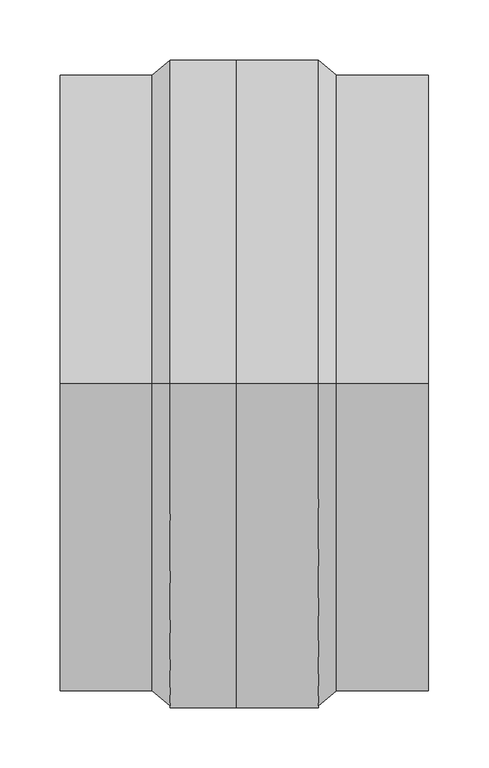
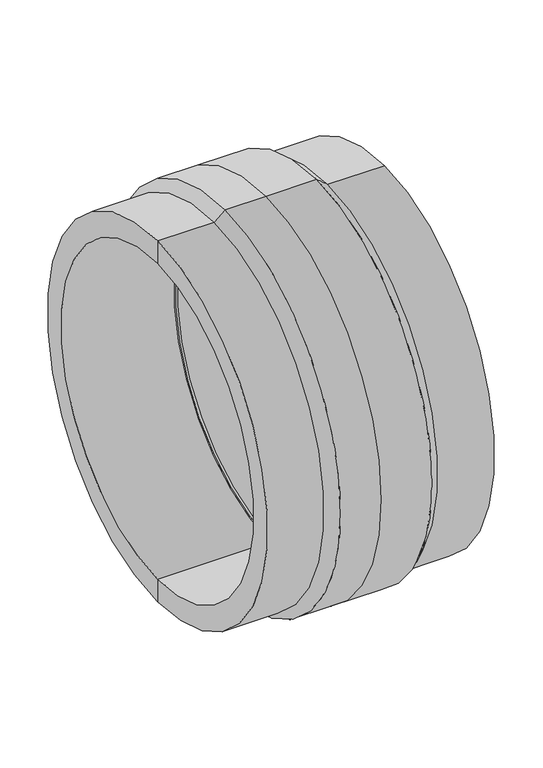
"""IFC4 building model written with IfcOpenShell, lengths in millimetres: pipe fitting geometry, Plumbing_Pipe-Fittings_Plasson_Coupler_490103 : Plumbing_Pipe-Fittings_Plasson_Coupler_490103."""

from ifc_helpers import new_model, si_unit, frame, origin, place, context, project, spatial, polyline, circle_curve, source, transform, mapped, element, save
from ifc_brep_helpers import plane_surface, cylinder_surface, revolved_surface, advanced_brep


def pipe_fitting_ba987658(model_context):
    return source(origin(), model_context, "Body", "AdvancedBrep", [
        advanced_brep(
        [(-1.5, 0.0, -225.0), (-1.5, 0.0, 225.0), (-153.0, 0.0, 225.0), (-153.0, 0.0, -225.0), (153.0, 0.0, -225.0), (153.0, 0.0, 225.0), (1.5, 0.0, 225.0), (1.5, 0.0, -225.0), (153.0, 0.0, -257.0), (153.0, 0.0, 257.0), (76.5, 0.0, -257.0), (76.5, 0.0, 257.0), (61.6666667, 0.0, -269.5), (61.6666667, 0.0, 269.5), (-6.5, 0.0, -269.5), (-6.5, 0.0, 269.5), (-61.6666667, 0.0, -269.5), (-61.6666667, 0.0, 269.5), (-76.5, 0.0, -257.0), (-76.5, 0.0, 257.0), (-153.0, 0.0, -257.0), (-153.0, 0.0, 257.0), (-1.5, 0.0, -222.0), (-1.5, 0.0, 222.0), (1.5, 0.0, -222.0), (1.5, 0.0, 222.0)],
        [
            (0, 1, circle_curve(frame((-1.5, 0.0, 0.0), z_axis=(1.0, 0.0, 0.0), x_axis=(0.0, 0.0, 1.0)), 225.0)),
            (1, 2),
            (2, 3, circle_curve(frame((-153.0, 0.0, 0.0), z_axis=(-1.0, 0.0, 0.0), x_axis=(0.0, 0.0, 1.0)), 225.0)),
            (3, 0),
            (1, 0, circle_curve(frame((-1.5, 0.0, 0.0), z_axis=(1.0, 0.0, 0.0), x_axis=(0.0, 0.0, 1.0)), 225.0)),
            (3, 2, circle_curve(frame((-153.0, 0.0, 0.0), z_axis=(-1.0, 0.0, 0.0), x_axis=(0.0, 0.0, 1.0)), 225.0)),
            (4, 5, circle_curve(frame((153.0, 0.0, 0.0), z_axis=(1.0, 0.0, 0.0), x_axis=(0.0, 0.0, 1.0)), 225.0)),
            (5, 6),
            (6, 7, circle_curve(frame((1.5, 0.0, 0.0), z_axis=(-1.0, 0.0, 0.0), x_axis=(0.0, 0.0, 1.0)), 225.0)),
            (7, 4),
            (5, 4, circle_curve(frame((153.0, 0.0, 0.0), z_axis=(1.0, 0.0, 0.0), x_axis=(0.0, 0.0, 1.0)), 225.0)),
            (7, 6, circle_curve(frame((1.5, 0.0, 0.0), z_axis=(-1.0, 0.0, 0.0), x_axis=(0.0, 0.0, 1.0)), 225.0)),
            (8, 9, circle_curve(frame((153.0, 0.0, 0.0), z_axis=(1.0, 0.0, 0.0), x_axis=(0.0, 0.0, 1.0)), 257.0)),
            (9, 5),
            (4, 8),
            (9, 8, circle_curve(frame((153.0, 0.0, 0.0), z_axis=(1.0, 0.0, 0.0), x_axis=(0.0, 0.0, 1.0)), 257.0)),
            (10, 11, circle_curve(frame((76.5, 0.0, 0.0), z_axis=(1.0, 0.0, 0.0), x_axis=(0.0, 0.0, 1.0)), 257.0)),
            (11, 9),
            (8, 10),
            (11, 10, circle_curve(frame((76.5, 0.0, 0.0), z_axis=(1.0, 0.0, 0.0), x_axis=(0.0, 0.0, 1.0)), 257.0)),
            (12, 13, circle_curve(frame((61.6666667, 0.0, 0.0), z_axis=(1.0, 0.0, 0.0), x_axis=(0.0, 0.0, 1.0)), 269.5)),
            (13, 11),
            (10, 12),
            (13, 12, circle_curve(frame((61.6666667, 0.0, 0.0), z_axis=(1.0, 0.0, 0.0), x_axis=(0.0, 0.0, 1.0)), 269.5)),
            (14, 15, circle_curve(frame((-6.5, 0.0, 0.0), z_axis=(1.0, 0.0, 0.0), x_axis=(0.0, 0.0, 1.0)), 269.5)),
            (15, 13),
            (12, 14),
            (15, 14, circle_curve(frame((-6.5, 0.0, 0.0), z_axis=(1.0, 0.0, 0.0), x_axis=(0.0, 0.0, 1.0)), 269.5)),
            (16, 17, circle_curve(frame((-61.6666667, 0.0, 0.0), z_axis=(1.0, 0.0, 0.0), x_axis=(0.0, 0.0, 1.0)), 269.5)),
            (17, 15),
            (14, 16),
            (17, 16, circle_curve(frame((-61.6666667, 0.0, 0.0), z_axis=(1.0, 0.0, 0.0), x_axis=(0.0, 0.0, 1.0)), 269.5)),
            (18, 19, circle_curve(frame((-76.5, 0.0, 0.0), z_axis=(1.0, 0.0, 0.0), x_axis=(0.0, 0.0, 1.0)), 257.0)),
            (19, 17),
            (16, 18),
            (19, 18, circle_curve(frame((-76.5, 0.0, 0.0), z_axis=(1.0, 0.0, 0.0), x_axis=(0.0, 0.0, 1.0)), 257.0)),
            (20, 21, circle_curve(frame((-153.0, 0.0, 0.0), z_axis=(1.0, 0.0, 0.0), x_axis=(0.0, 0.0, 1.0)), 257.0)),
            (21, 19),
            (18, 20),
            (21, 20, circle_curve(frame((-153.0, 0.0, 0.0), z_axis=(1.0, 0.0, 0.0), x_axis=(0.0, 0.0, 1.0)), 257.0)),
            (2, 21),
            (20, 3),
            (22, 23, circle_curve(frame((-1.5, 0.0, 0.0), z_axis=(1.0, 0.0, 0.0), x_axis=(0.0, 0.0, 1.0)), 222.0)),
            (23, 1),
            (0, 22),
            (23, 22, circle_curve(frame((-1.5, 0.0, 0.0), z_axis=(1.0, 0.0, 0.0), x_axis=(0.0, 0.0, 1.0)), 222.0)),
            (24, 25, circle_curve(frame((1.5, 0.0, 0.0), z_axis=(1.0, 0.0, 0.0), x_axis=(0.0, 0.0, 1.0)), 222.0)),
            (25, 23),
            (22, 24),
            (25, 24, circle_curve(frame((1.5, 0.0, 0.0), z_axis=(1.0, 0.0, 0.0), x_axis=(0.0, 0.0, 1.0)), 222.0)),
            (6, 25),
            (24, 7),
        ],
        [
            revolved_surface(polyline([(-153.0, 0.0, 225.0), (-1.5, 0.0, 225.0)]), (-153.0, 0.0, 0.0), (-1.0, 0.0, 0.0)),
            revolved_surface(polyline([(1.5, 0.0, 225.0), (153.0, 0.0, 225.0)]), (-153.0, 0.0, 0.0), (-1.0, 0.0, 0.0)),
            plane_surface(frame((153.0, 0.0, 0.0), z_axis=(1.0, 0.0, 0.0), x_axis=(0.0, 0.0, 1.0))),
            cylinder_surface(frame((-153.0, 0.0, 0.0), z_axis=(-1.0, 0.0, 0.0), x_axis=(0.0, 0.0, 1.0)), 257.0),
            revolved_surface(polyline([(76.5, 0.0, 257.0), (61.6666667, 0.0, 269.5)]), (-153.0, 0.0, 0.0), (-1.0, 0.0, 0.0)),
            cylinder_surface(frame((-153.0, 0.0, 0.0), z_axis=(-1.0, 0.0, 0.0), x_axis=(0.0, 0.0, 1.0)), 269.5),
            revolved_surface(polyline([(-61.6666667, 0.0, 269.5), (-76.5, 0.0, 257.0)]), (-153.0, 0.0, 0.0), (-1.0, 0.0, 0.0)),
            plane_surface(frame((-153.0, 0.0, 0.0), z_axis=(-1.0, 0.0, 0.0), x_axis=(0.0, 0.0, 1.0))),
            plane_surface(frame((-1.5, 0.0, 0.0), z_axis=(-1.0, 0.0, 0.0), x_axis=(0.0, 0.0, 1.0))),
            revolved_surface(polyline([(-1.5, 0.0, 222.0), (1.5, 0.0, 222.0)]), (-153.0, 0.0, 0.0), (-1.0, 0.0, 0.0)),
            plane_surface(frame((1.5, 0.0, 0.0), z_axis=(1.0, 0.0, 0.0), x_axis=(0.0, 0.0, 1.0))),
        ],
        [
            (0, [[1, 2, 3, 4]]),
            (0, [[5, -4, 6, -2]]),
            (1, [[7, 8, 9, 10]]),
            (1, [[11, -10, 12, -8]]),
            (2, [[13, 14, -7, 15]]),
            (2, [[16, -15, -11, -14]]),
            (3, [[17, 18, -13, 19]]),
            (3, [[20, -19, -16, -18]]),
            (4, [[21, 22, -17, 23]]),
            (4, [[24, -23, -20, -22]]),
            (5, [[25, 26, -21, 27]]),
            (5, [[28, -27, -24, -26]]),
            (5, [[29, 30, -25, 31]]),
            (5, [[32, -31, -28, -30]]),
            (6, [[33, 34, -29, 35]]),
            (6, [[36, -35, -32, -34]]),
            (3, [[37, 38, -33, 39]]),
            (3, [[40, -39, -36, -38]]),
            (7, [[-3, 41, -37, 42]]),
            (7, [[-6, -42, -40, -41]]),
            (8, [[43, 44, -1, 45]]),
            (8, [[46, -45, -5, -44]]),
            (9, [[47, 48, -43, 49]]),
            (9, [[50, -49, -46, -48]]),
            (10, [[-9, 51, -47, 52]]),
            (10, [[-12, -52, -50, -51]]),
        ],
    ),
    ])


if __name__ == "__main__":
    model = new_model("IFC4")
    model_context = context("Model", 3, world=origin())
    ifc_project = project(units=[si_unit("LENGTHUNIT", "METRE", prefix="MILLI")], contexts=[model_context])
    site = spatial("IfcSite", under=ifc_project)
    building = spatial("IfcBuilding", under=site)
    placement = place(None, origin())
    pipe_fitting_shape = pipe_fitting_ba987658(model_context)
    element("IfcPipeFitting", 1, ObjectType="Plumbing_Pipe-Fittings_Plasson_Coupler_490103 : Plumbing_Pipe-Fittings_Plasson_Coupler_490103", at=placement, inside=building, context=model_context, shape_type="MappedRepresentation", body=[
        mapped(pipe_fitting_shape, transform((0.0, 0.0, 0.0), x_axis=(1.0, 0.0, 0.0), y_axis=(0.0, 1.0, 0.0), z_axis=(0.0, 0.0, 1.0))),
    ])
    save(model, "model.ifc")
